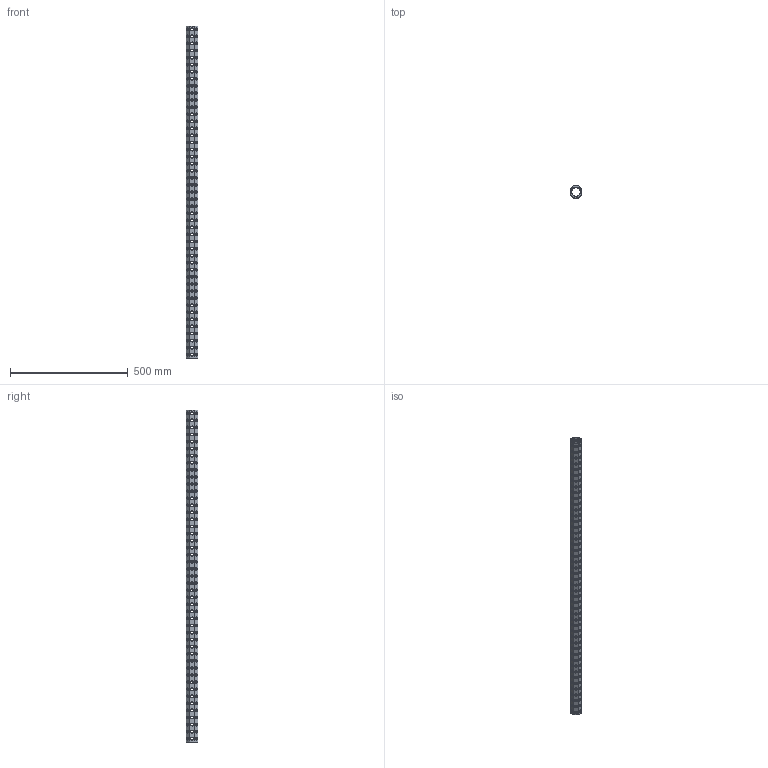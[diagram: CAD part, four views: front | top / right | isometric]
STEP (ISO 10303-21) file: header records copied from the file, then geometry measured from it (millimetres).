
FILE_DESCRIPTION(('CATIA V5 STEP Exchange'),'2;1');
FILE_NAME('U:\Room\唐宝山\EGT002\46-01-010276-01-EGT002-1408.stp','2021-08-24T01:24:40+00:00',('none'),('none'),'CATIA Version 5 Release 21 GA (IN-10)','CATIA V5 STEP AP203','none');
FILE_SCHEMA(('CONFIG_CONTROL_DESIGN'));
Products named in the file (1): 46-01-010276-01-EGT002-1408
Bounding box: 50 x 50 x 1408 mm (x, y, z)
Volume: 1003112.5 mm3; surface area: 484146.9 mm2
Topology: 1 solids, 1 shells, 1964 faces, 5416 edges, 3360 vertices
Faces by surface type: cone 1128, cylinder 810, plane 26
Entity records: 84785 total; most frequent: CARTESIAN_POINT 37704, ORIENTED_EDGE 10832, DIRECTION 7398, EDGE_CURVE 5416, VERTEX_POINT 3360, AXIS2_PLACEMENT_3D 3331, EDGE_LOOP 2624, VECTOR 2104
